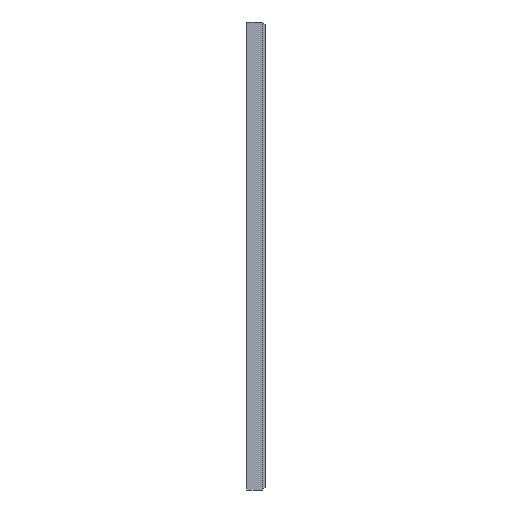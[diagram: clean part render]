
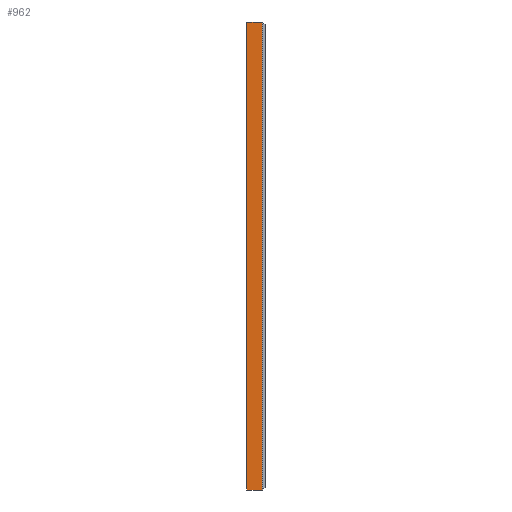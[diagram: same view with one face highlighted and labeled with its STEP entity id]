
A CAD part, left-side view. The second image highlights one B-rep face of the part: STEP entity #962.
In plain terms, the highlighted planar face has unit normal (-1, 0, 0).
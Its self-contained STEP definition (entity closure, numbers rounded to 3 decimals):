
#49 = CARTESIAN_POINT ( 'NONE',  ( -161.9, 10., -126.4 ) ) ;
#73 = DIRECTION ( 'NONE',  ( 0., 0., 1. ) ) ;
#83 = EDGE_CURVE ( 'NONE', #1334, #103, #1227, .T. ) ;
#103 = VERTEX_POINT ( 'NONE', #242 ) ;
#107 = VERTEX_POINT ( 'NONE', #884 ) ;
#191 = EDGE_CURVE ( 'NONE', #107, #870, #896, .T. ) ;
#205 = DIRECTION ( 'NONE',  ( 0., -1., 0. ) ) ;
#237 = LINE ( 'NONE', #1111, #1044 ) ;
#242 = CARTESIAN_POINT ( 'NONE',  ( -161.9, 1.5, 126.4 ) ) ;
#369 = DIRECTION ( 'NONE',  ( 1., 0., 0. ) ) ;
#380 = FACE_OUTER_BOUND ( 'NONE', #453, .T. ) ;
#386 = DIRECTION ( 'NONE',  ( 0., -1., 0. ) ) ;
#453 = EDGE_LOOP ( 'NONE', ( #953, #1088, #681, #1124 ) ) ;
#460 = VECTOR ( 'NONE', #205, 1000. ) ;
#485 = AXIS2_PLACEMENT_3D ( 'NONE', #49, #369, #890 ) ;
#504 = CARTESIAN_POINT ( 'NONE',  ( -161.9, 10., -126.4 ) ) ;
#625 = VECTOR ( 'NONE', #1242, 1000. ) ;
#674 = VECTOR ( 'NONE', #73, 1000. ) ;
#681 = ORIENTED_EDGE ( 'NONE', *, *, #1165, .F. ) ;
#737 = EDGE_CURVE ( 'NONE', #107, #1334, #746, .T. ) ;
#741 = CARTESIAN_POINT ( 'NONE',  ( -161.9, 10., -126.4 ) ) ;
#746 = LINE ( 'NONE', #741, #460 ) ;
#870 = VERTEX_POINT ( 'NONE', #1102 ) ;
#884 = CARTESIAN_POINT ( 'NONE',  ( -161.9, 10., -126.4 ) ) ;
#890 = DIRECTION ( 'NONE',  ( 0., 0., -1. ) ) ;
#896 = LINE ( 'NONE', #504, #625 ) ;
#953 = ORIENTED_EDGE ( 'NONE', *, *, #737, .T. ) ;
#962 = ADVANCED_FACE ( 'NONE', ( #380 ), #1093, .F. ) ;
#1012 = CARTESIAN_POINT ( 'NONE',  ( -161.9, 1.5, 126.4 ) ) ;
#1044 = VECTOR ( 'NONE', #386, 1000. ) ;
#1088 = ORIENTED_EDGE ( 'NONE', *, *, #83, .T. ) ;
#1093 = PLANE ( 'NONE',  #485 ) ;
#1102 = CARTESIAN_POINT ( 'NONE',  ( -161.9, 10., 126.4 ) ) ;
#1111 = CARTESIAN_POINT ( 'NONE',  ( -161.9, 10., 126.4 ) ) ;
#1124 = ORIENTED_EDGE ( 'NONE', *, *, #191, .F. ) ;
#1165 = EDGE_CURVE ( 'NONE', #870, #103, #237, .T. ) ;
#1173 = CARTESIAN_POINT ( 'NONE',  ( -161.9, 1.5, -126.4 ) ) ;
#1227 = LINE ( 'NONE', #1012, #674 ) ;
#1242 = DIRECTION ( 'NONE',  ( 0., 0., 1. ) ) ;
#1334 = VERTEX_POINT ( 'NONE', #1173 ) ;
